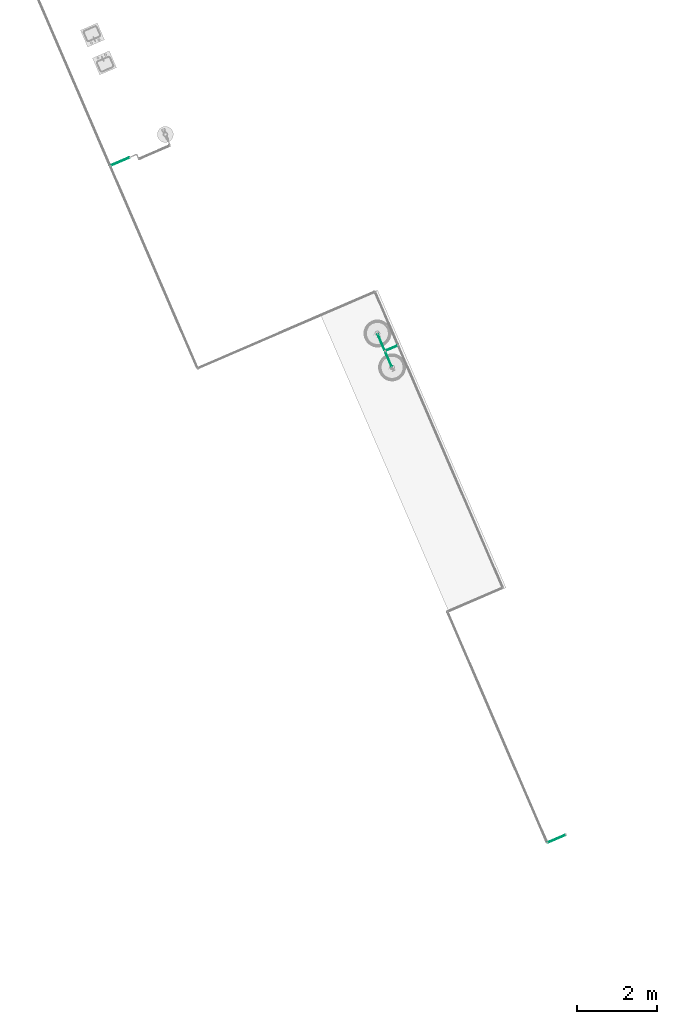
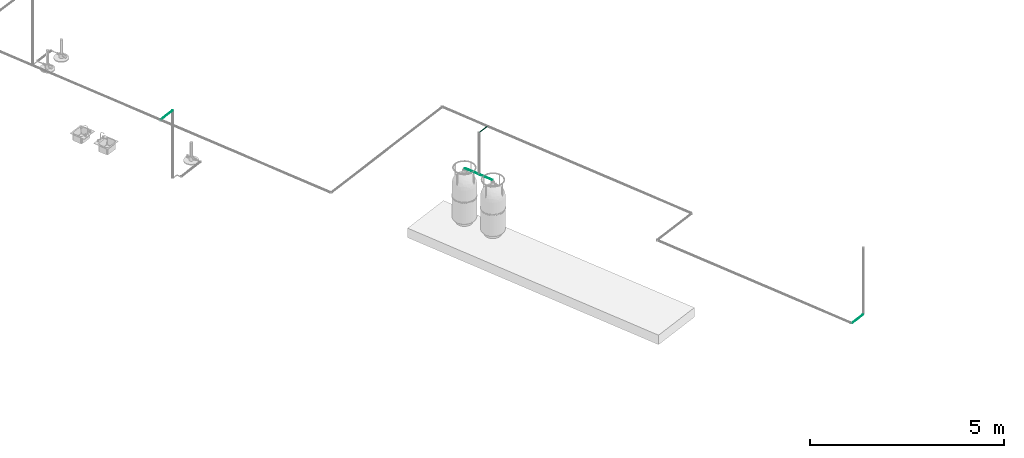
# One storey, part 11 of 26: 5 pipe segments.
"""IFC4 building model written with IfcOpenShell, lengths in metres."""

from ifc_helpers import new_model, entity, si_unit, converted_unit, derived_unit, direction, frame, origin, place, context, subcontext, project, spatial, arc, indexed_curve, outline, extrude, material, type_object, element, save


model = new_model("IFC4")

# Units and contexts
model_context = context("Model", 3, precision=1e-05, world=origin(), true_north=direction((6.12323399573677e-17, 1.0)))
body_context = subcontext(model_context, "Body", "Model", "MODEL_VIEW")
ifc_project = project(units=[si_unit("LENGTHUNIT", "METRE"), si_unit("AREAUNIT", "SQUARE_METRE"), si_unit("VOLUMEUNIT", "CUBIC_METRE"), si_unit("PRESSUREUNIT", "PASCAL"), derived_unit("VOLUMETRICFLOWRATEUNIT", [(si_unit("LENGTHUNIT", "METRE", prefix="DECI"), 3), (si_unit("TIMEUNIT", "SECOND"), -1)]), converted_unit("PLANEANGLEUNIT", "DEGREE", entity("IfcPlaneAngleMeasure", 0.0174532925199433), si_unit("PLANEANGLEUNIT", "RADIAN"), dimensions=[0, 0, 0, 0, 0, 0, 0])], contexts=[model_context])

# Site, building, storey
site_placement = place(None, origin())
site = spatial("IfcSite", under=ifc_project, at=site_placement, Name="Default", CompositionType="ELEMENT")
building_placement = place(site_placement, frame((24.575451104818, -55.896759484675, 317.15), z_axis=(0.0, 0.0, 1.0), x_axis=(-0.396377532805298, 0.918087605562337, 0.0)))
building = spatial("IfcBuilding", under=site, at=building_placement, CompositionType="ELEMENT")
storey_placement = place(building_placement, origin())
storey = spatial("IfcBuildingStorey", under=building, at=storey_placement, Name="Nivel 1", CompositionType="ELEMENT", Elevation=0.0)

# Pipe segments
ifc_material = material(Name="Cobre", Category="Undefined")
pipe_segment_type = type_object("IfcPipeSegmentType", Name="Pipe Types:GAS", PredefinedType="NOTDEFINED")
pipe_segment_1_placement = place(storey_placement, origin())
element("IfcPipeSegment", 1, at=pipe_segment_1_placement, inside=storey, type_object=pipe_segment_type, material=ifc_material, Name="Pipe Types:GAS", ObjectType="Pipe Types:GAS", PredefinedType="NOTDEFINED", context=body_context, shape_type="SweptSolid", body=[
    extrude(outline(indexed_curve([(0.0100000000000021, 0.0), (0.00707106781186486, 0.00707106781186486), (0.0, 0.00999999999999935), (-0.00707106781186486, 0.00707106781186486), (-0.0100000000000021, 0.0), (-0.00707106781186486, -0.00707106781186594), (0.0, -0.0100000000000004), (0.00707106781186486, -0.00707106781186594)], segments=[arc(1, 2, 3), arc(3, 4, 5), arc(5, 6, 7), arc(7, 8, 1)], self_intersect=False)), frame((22.0687146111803, 37.7226440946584, 3.0), z_axis=(0.0, 1.0, 0.0), x_axis=(-1.0, 0.0, 0.0)), (0.0, 0.0, 1.0), 0.317248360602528),
])
pipe_segment_2_placement = place(storey_placement, origin())
element("IfcPipeSegment", 2, at=pipe_segment_2_placement, inside=storey, type_object=pipe_segment_type, material=ifc_material, Name="Pipe Types:GAS", ObjectType="Pipe Types:GAS", PredefinedType="NOTDEFINED", context=body_context, shape_type="SweptSolid", body=[
    extrude(outline(indexed_curve([(0.0100000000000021, 0.0), (0.00707106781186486, 0.0070710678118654), (0.0, 0.00999999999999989), (-0.00707106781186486, 0.0070710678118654), (-0.0100000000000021, 0.0), (-0.00707106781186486, -0.0070710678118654), (0.0, -0.00999999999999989), (0.00707106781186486, -0.0070710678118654)], segments=[arc(1, 2, 3), arc(3, 4, 5), arc(5, 6, 7), arc(7, 8, 1)], self_intersect=False)), frame((21.6458033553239, 38.0573549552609, 1.68190000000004), z_axis=(1.0, 0.0, 0.0), x_axis=(0.0, 1.0, 0.0)), (0.0, 0.0, 1.0), 0.399098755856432),
])
pipe_segment_3_placement = place(storey_placement, origin())
element("IfcPipeSegment", 3, at=pipe_segment_3_placement, inside=storey, type_object=pipe_segment_type, material=ifc_material, Name="Pipe Types:GAS", ObjectType="Pipe Types:GAS", PredefinedType="NOTDEFINED", context=body_context, shape_type="SweptSolid", body=[
    extrude(outline(indexed_curve([(0.0100000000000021, 0.0), (0.00707106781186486, 0.0070710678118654), (0.0, 0.00999999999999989), (-0.00707106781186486, 0.0070710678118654), (-0.0100000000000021, 0.0), (-0.00707106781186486, -0.0070710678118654), (0.0, -0.00999999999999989), (0.00707106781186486, -0.0070710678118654)], segments=[arc(1, 2, 3), arc(3, 4, 5), arc(5, 6, 7), arc(7, 8, 1)], self_intersect=False)), frame((22.0925271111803, 38.0573549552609, 1.68190000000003), z_axis=(1.0, 0.0, 0.0), x_axis=(0.0, 1.0, 0.0)), (0.0, 0.0, 1.0), 0.433288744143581),
])
pipe_segment_4_placement = place(storey_placement, origin())
element("IfcPipeSegment", 4, at=pipe_segment_4_placement, inside=storey, type_object=pipe_segment_type, material=ifc_material, Name="Pipe Types:GAS", ObjectType="Pipe Types:GAS", PredefinedType="NOTDEFINED", context=body_context, shape_type="SweptSolid", body=[
    extrude(outline(indexed_curve([(0.0100000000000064, 0.0), (0.00707106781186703, 0.00707106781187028), (-6.49720277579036e-15, 0.00999999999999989), (-0.00707106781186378, 0.00707106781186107), (-0.0099999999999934, 0.0), (-0.00707106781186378, -0.00707106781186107), (-6.49720277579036e-15, -0.00999999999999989), (0.00707106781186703, -0.00707106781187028)], segments=[arc(1, 2, 3), arc(3, 4, 5), arc(5, 6, 7), arc(7, 8, 1)], self_intersect=False)), frame((9.21853904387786, 38.7105627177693, 3.0), z_axis=(0.0, 1.0, 0.0), x_axis=(-1.0, 0.0, 0.0)), (0.0, 0.0, 1.0), 0.47359826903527),
])
pipe_segment_5_placement = place(storey_placement, origin())
element("IfcPipeSegment", 5, at=pipe_segment_5_placement, inside=storey, type_object=pipe_segment_type, material=ifc_material, Name="Pipe Types:GAS", ObjectType="Pipe Types:GAS", PredefinedType="NOTDEFINED", context=body_context, shape_type="SweptSolid", body=[
    extrude(outline(indexed_curve([(0.00999999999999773, -1.97427997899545e-18), (0.00707106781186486, 0.00707106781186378), (1.97427997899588e-18, 0.00999999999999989), (-0.00707106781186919, 0.00707106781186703), (-0.0100000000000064, 1.97427997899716e-18), (-0.00707106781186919, -0.00707106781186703), (-1.97427997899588e-18, -0.00999999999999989), (0.00707106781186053, -0.00707106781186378)], segments=[arc(1, 2, 3), arc(3, 4, 5), arc(5, 6, 7), arc(7, 8, 1)], self_intersect=False)), frame((29.0193069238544, 41.9923174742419, 3.0), z_axis=(0.0, 1.0, 0.0), x_axis=(-1.0, 0.0, 0.0)), (0.0, 0.0, 1.0), 0.497746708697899),
])

save(model, "model.ifc")
